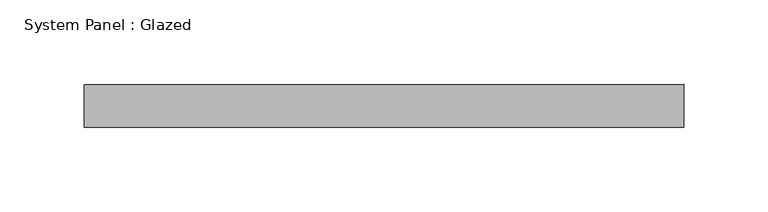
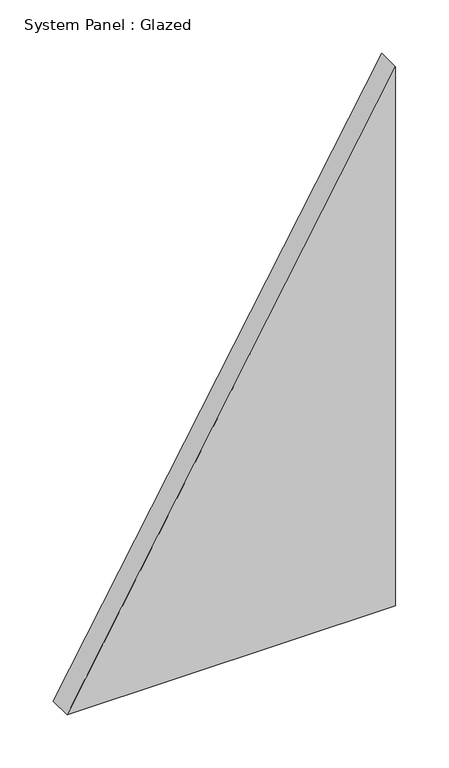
"""IFC4 building model written with IfcOpenShell, lengths in millimetres: plate geometry, System Panel : Glazed."""

from ifc_helpers import new_model, si_unit, frame, origin, place, context, project, spatial, polyline, outline, extrude, source, transform, mapped, element, save


def system_panel_glazed_1b561ad4(model_context):
    return source(origin(), model_context, "Body", "SweptSolid", [
        extrude(outline(polyline([(0.0, -177.6475117), (0.0, 177.6475117), (615.389032, 177.6475117), (0.0, -177.6475117)])), frame((0.0, 19.05, 0.0), z_axis=(0.0, 1.0, 0.0), x_axis=(0.0, 0.0, 1.0)), (0.0, 0.0, 1.0), 25.4),
    ])


if __name__ == "__main__":
    model = new_model("IFC4")
    model_context = context("Model", 3, world=origin())
    ifc_project = project(units=[si_unit("LENGTHUNIT", "METRE", prefix="MILLI")], contexts=[model_context])
    site = spatial("IfcSite", under=ifc_project)
    building = spatial("IfcBuilding", under=site)
    placement = place(None, origin())
    system_panel_glazed_shape = system_panel_glazed_1b561ad4(model_context)
    element("IfcPlate", 1, ObjectType="System Panel : Glazed", at=placement, inside=building, context=model_context, shape_type="MappedRepresentation", body=[
        mapped(system_panel_glazed_shape, transform((0.0, 0.0, 0.0), x_axis=(1.0, 0.0, 0.0), y_axis=(0.0, 1.0, 0.0), z_axis=(0.0, 0.0, 1.0))),
    ])
    save(model, "model.ifc")
